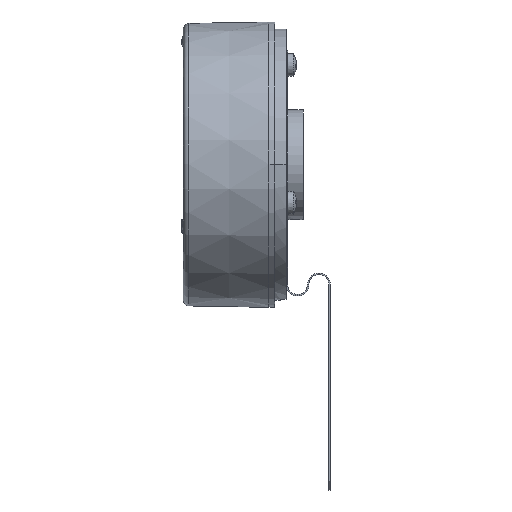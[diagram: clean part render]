
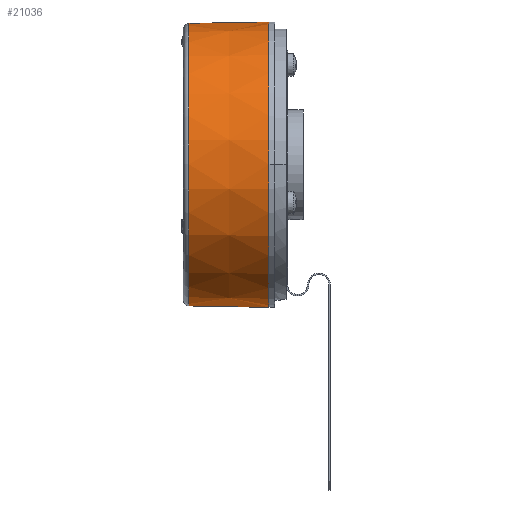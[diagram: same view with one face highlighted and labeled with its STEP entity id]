
A CAD part, top view. The second image highlights one B-rep face of the part: STEP entity #21036.
In plain terms, the highlighted conical face has half-angle 1 degrees and reference radius 50 mm.
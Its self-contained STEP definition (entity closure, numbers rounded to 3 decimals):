
#1976 = CARTESIAN_POINT ( 'NONE',  ( 15.192, 46.344, 0. ) ) ;
#2014 = CARTESIAN_POINT ( 'NONE',  ( 15.192, -52.677, 0. ) ) ;
#2140 = DIRECTION ( 'NONE',  ( 0., 1., 0. ) ) ;
#2141 = DIRECTION ( 'NONE',  ( 1., 0., 0. ) ) ;
#2142 = CARTESIAN_POINT ( 'NONE',  ( 15.192, -3.167, 0. ) ) ;
#2143 = AXIS2_PLACEMENT_3D ( 'NONE', #2142, #2141, #2140 ) ;
#2144 = CIRCLE ( 'NONE', #2143, 49.511 ) ;
#2174 = DIRECTION ( 'NONE',  ( 0., 1., 0. ) ) ;
#2175 = DIRECTION ( 'NONE',  ( -1., 0., 0. ) ) ;
#2176 = CARTESIAN_POINT ( 'NONE',  ( 43.227, -3.167, 0. ) ) ;
#2177 = AXIS2_PLACEMENT_3D ( 'NONE', #2176, #2175, #2174 ) ;
#2178 = CIRCLE ( 'NONE', #2177, 50. ) ;
#2179 = CARTESIAN_POINT ( 'NONE',  ( 43.227, -53.167, 0. ) ) ;
#2180 = DIRECTION ( 'NONE',  ( 1., -0.017, 0. ) ) ;
#2181 = VECTOR ( 'NONE', #2180, 1000. ) ;
#2182 = CARTESIAN_POINT ( 'NONE',  ( 43.227, -53.167, 0. ) ) ;
#2183 = LINE ( 'NONE', #2182, #2181 ) ;
#2196 = FACE_OUTER_BOUND ( 'NONE', #21037, .T. ) ;
#2198 = CARTESIAN_POINT ( 'NONE',  ( 43.227, -3.167, 0. ) ) ;
#2199 = AXIS2_PLACEMENT_3D ( 'NONE', #2198, #2248, #2247 ) ;
#2206 = CARTESIAN_POINT ( 'NONE',  ( 43.227, 46.833, 0. ) ) ;
#2207 = DIRECTION ( 'NONE',  ( 1., 0.017, 0. ) ) ;
#2208 = VECTOR ( 'NONE', #2207, 1000. ) ;
#2209 = CARTESIAN_POINT ( 'NONE',  ( 43.227, 46.833, 0. ) ) ;
#2210 = LINE ( 'NONE', #2209, #2208 ) ;
#2247 = DIRECTION ( 'NONE',  ( 0., -1., 0. ) ) ;
#2248 = DIRECTION ( 'NONE',  ( 1., 0., 0. ) ) ;
#2254 = CONICAL_SURFACE ( 'NONE', #2199, 50., 0.017 ) ;
#20927 = VERTEX_POINT ( 'NONE', #1976 ) ;
#20941 = VERTEX_POINT ( 'NONE', #2014 ) ;
#21000 = EDGE_CURVE ( 'NONE', #20927, #20941, #2144, .T. ) ;
#21010 = ORIENTED_EDGE ( 'NONE', *, *, #21029, .F. ) ;
#21011 = ORIENTED_EDGE ( 'NONE', *, *, #21000, .T. ) ;
#21012 = ORIENTED_EDGE ( 'NONE', *, *, #21013, .T. ) ;
#21013 = EDGE_CURVE ( 'NONE', #20941, #21014, #2183, .T. ) ;
#21014 = VERTEX_POINT ( 'NONE', #2179 ) ;
#21015 = ORIENTED_EDGE ( 'NONE', *, *, #21016, .T. ) ;
#21016 = EDGE_CURVE ( 'NONE', #21014, #21030, #2178, .T. ) ;
#21029 = EDGE_CURVE ( 'NONE', #20927, #21030, #2210, .T. ) ;
#21030 = VERTEX_POINT ( 'NONE', #2206 ) ;
#21036 = ADVANCED_FACE ( 'NONE', ( #2196 ), #2254, .T. ) ;
#21037 = EDGE_LOOP ( 'NONE', ( #21010, #21011, #21012, #21015 ) ) ;
